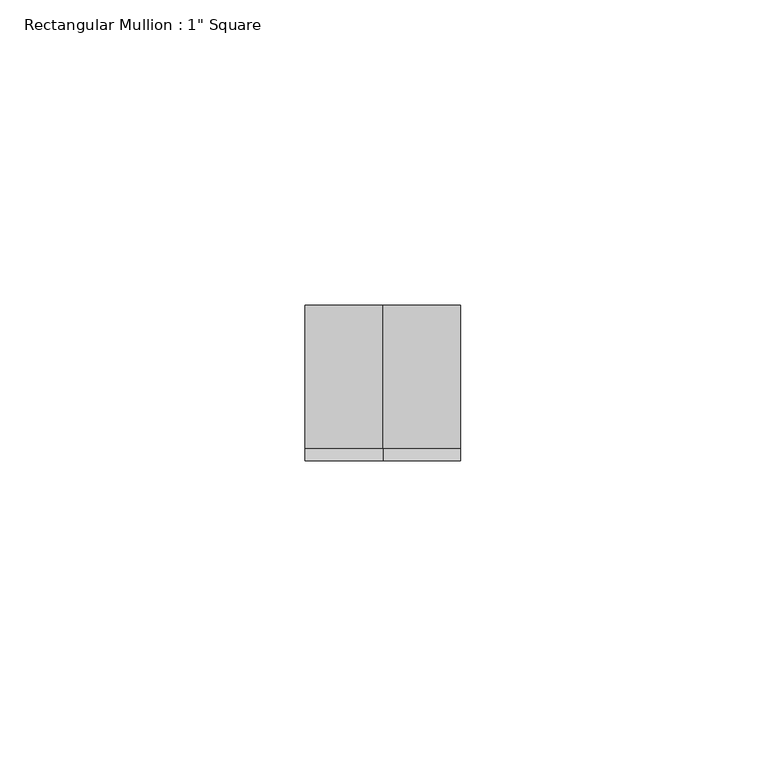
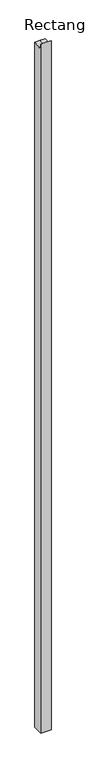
"""IFC4 building model written with IfcOpenShell, lengths in millimetres: member geometry."""

import ifcopenshell
import ifcopenshell.guid

model = None  # the IFC model being written
_history = None  # IfcOwnerHistory: only IFC2X3 demands one
_inside = {}  # id of a spatial element -> (the spatial element, [elements in it])
_under = {}  # id of a project, library or spatial element -> (it, [spatial elements below it])
_declared = {}  # id of a project -> (the project, [libraries it declares])
_typed = {}  # id of a type object -> (the type object, [elements of that type])
_made_of = {}  # id of a material, layer set ... -> (it, [elements and type objects made of it])


def new_model(schema):
    """Start an empty IFC model of exactly this schema.

    Asked for "IFC4X3", IfcOpenShell would pick the latest addendum, in which some entities
    have other attributes; the version numbers below select the first issue.
    IFC2X3 requires an IfcOwnerHistory on every rooted entity: one is made here for all.
    """
    global model, _history
    if schema == "IFC4X3":
        model = ifcopenshell.file(schema_version=(4, 3, 0, 0))
    else:
        model = ifcopenshell.file(schema=schema)
    _inside.clear()
    _under.clear()
    _declared.clear()
    _typed.clear()
    _made_of.clear()
    _history = None
    if model.schema == "IFC2X3":
        org = make("IfcOrganization", Name="unknown")
        user = make(
            "IfcPersonAndOrganization",
            ThePerson=make("IfcPerson", FamilyName="unknown"),
            TheOrganization=org,
        )
        app = make(
            "IfcApplication",
            ApplicationDeveloper=org,
            Version="unknown",
            ApplicationFullName="unknown",
            ApplicationIdentifier="unknown",
        )
        _history = make(
            "IfcOwnerHistory",
            OwningUser=user,
            OwningApplication=app,
            ChangeAction="ADDED",
            CreationDate=0,
        )
    return model


def make(cls, **values):
    """One entity of the class cls with the attributes given. An attribute that is None is left unset."""
    return model.create_entity(
        cls, **{name: value for name, value in values.items() if value is not None}
    )


def rooted(cls, **values):
    """An entity with a GlobalId (a new one), such as an element, a storey or a relation."""
    return make(cls, GlobalId=ifcopenshell.guid.new(), OwnerHistory=_history, **values)


def si_unit(unit_type, name, prefix=None):
    """IfcSIUnit, for example si_unit("LENGTHUNIT", "METRE", prefix="MILLI")."""
    return make("IfcSIUnit", UnitType=unit_type, Prefix=prefix, Name=name)


def assignment(units):
    """IfcUnitAssignment: the units of a project."""
    return None if units is None else make("IfcUnitAssignment", Units=units)


def point(xyz):
    """IfcCartesianPoint."""
    return None if xyz is None else make("IfcCartesianPoint", Coordinates=xyz)


def direction(xyz):
    """IfcDirection."""
    return None if xyz is None else make("IfcDirection", DirectionRatios=xyz)


def frame(location, z_axis=None, x_axis=None):
    """IfcAxis2Placement3D, a coordinate frame: its origin and axes. An axis left out is left unset."""
    return make(
        "IfcAxis2Placement3D",
        Location=point(location),
        Axis=direction(z_axis),
        RefDirection=direction(x_axis),
    )


def origin():
    """The frame at (0, 0, 0) with its axes left unset."""
    return frame((0.0, 0.0, 0.0))


def place(relative_to, where):
    """IfcLocalPlacement: puts the frame where relative to a parent placement (None: the world)."""
    return make(
        "IfcLocalPlacement", PlacementRelTo=relative_to, RelativePlacement=where
    )


def context(
    kind, dimensions, precision=None, world=None, true_north=None, identifier=None
):
    """IfcGeometricRepresentationContext, for example the 3D "Model" context."""
    return make(
        "IfcGeometricRepresentationContext",
        ContextIdentifier=identifier,
        ContextType=kind,
        CoordinateSpaceDimension=dimensions,
        Precision=precision,
        WorldCoordinateSystem=world,
        TrueNorth=true_north,
    )


def project(units=None, contexts=None):
    """IfcProject with its units and contexts."""
    return rooted(
        "IfcProject",
        Name="project",
        RepresentationContexts=contexts,
        UnitsInContext=assignment(units),
    )


def spatial(cls, under=None, at=None, **own):
    """A site, building, storey or space (cls), placed at a placement, below another one or the project."""
    s = rooted(cls, ObjectPlacement=at, **own)
    if under is not None:
        _under.setdefault(under.id(), (under, []))[1].append(s)
    return s


def faces_of(points, faces, orient=None, outer=None):
    """IfcFace entities. A face is a list of loops; a loop is a list of indices into points, from 0.

    orient and outer hold one flag for each loop. By default every Orientation is true, the
    first loop of a face is its IfcFaceOuterBound and the others are IfcFaceBound.
    """
    made = []
    for i, loops in enumerate(faces):
        bounds = []
        for j, loop in enumerate(loops):
            is_outer = j == 0 if outer is None else outer[i][j]
            bounds.append(
                make(
                    "IfcFaceOuterBound" if is_outer else "IfcFaceBound",
                    Bound=make("IfcPolyLoop", Polygon=[points[k] for k in loop]),
                    Orientation=True if orient is None else orient[i][j],
                )
            )
        made.append(make("IfcFace", Bounds=bounds))
    return made


def faceted_brep(points, faces, orient=None, outer=None, voids=None):
    """IfcFacetedBrep: a solid bounded by flat faces; with voids (closed shells), ...WithVoids."""
    shared = [point(p) for p in points]
    hull = make("IfcClosedShell", CfsFaces=faces_of(shared, faces, orient, outer))
    if voids is None:
        return make("IfcFacetedBrep", Outer=hull)
    return make(
        "IfcFacetedBrepWithVoids",
        Outer=hull,
        Voids=[
            make(cls, CfsFaces=faces_of(shared, fs, o, b)) for cls, fs, o, b in voids
        ],
    )


def shape(context_of_items, identifier, shape_type, items):
    """IfcShapeRepresentation: the items that make up one representation, for example the "Body"."""
    return make(
        "IfcShapeRepresentation",
        ContextOfItems=context_of_items,
        RepresentationIdentifier=identifier,
        RepresentationType=shape_type,
        Items=items,
    )


def source(mapping_origin, context_of_items, identifier, shape_type, items):
    """IfcRepresentationMap: a shape defined once, which mapped items show again and again."""
    return make(
        "IfcRepresentationMap",
        MappingOrigin=mapping_origin,
        MappedRepresentation=shape(context_of_items, identifier, shape_type, items),
    )


def transform(
    local_origin,
    x_axis=None,
    y_axis=None,
    z_axis=None,
    scale=None,
    scale2=None,
    scale3=None,
    uniform=True,
):
    """IfcCartesianTransformationOperator3D, or its non-uniform kind. x_axis, y_axis, z_axis: its Axis1, 2, 3."""
    if uniform:
        return make(
            "IfcCartesianTransformationOperator3D",
            Axis1=direction(x_axis),
            Axis2=direction(y_axis),
            LocalOrigin=point(local_origin),
            Scale=scale,
            Axis3=direction(z_axis),
        )
    return make(
        "IfcCartesianTransformationOperator3DnonUniform",
        Axis1=direction(x_axis),
        Axis2=direction(y_axis),
        LocalOrigin=point(local_origin),
        Scale=scale,
        Axis3=direction(z_axis),
        Scale2=scale2,
        Scale3=scale3,
    )


def mapped(mapping_source, mapping_target):
    """IfcMappedItem: shows the shape of a source again, moved by a transform."""
    return make(
        "IfcMappedItem", MappingSource=mapping_source, MappingTarget=mapping_target
    )


def made_of(thing, what):
    """Note that an element or type object is made of a material, layer set ...; save() writes the relation."""
    if what is not None:
        _made_of.setdefault(what.id(), (what, []))[1].append(thing)
    return thing


def element(
    cls,
    number,
    at=None,
    inside=None,
    cuts=None,
    type_object=None,
    material=None,
    context=None,
    identifier="Body",
    shape_type=None,
    held_by="IfcProductDefinitionShape",
    body=None,
    shapes=None,
    **own,
):
    """One element of the class cls, such as IfcWall. Its Tag is "e" and its number.

    at: its placement. inside: the storey or other place that contains it. cuts: it is an
    opening in that element (IfcRelVoidsElement). A single representation is given by context,
    identifier, shape_type and body (its items); several are given by shapes. held_by: the class
    of the entity that holds the representations. save() writes the other relations.
    """
    e = rooted(cls, Tag="e%d" % number, ObjectPlacement=at, **own)
    if body is not None:
        shapes = [shape(context, identifier, shape_type, body)]
    if shapes is not None:
        e.Representation = make(held_by, Representations=shapes)
    if inside is not None:
        _inside.setdefault(inside.id(), (inside, []))[1].append(e)
    if cuts is not None:
        rooted(
            "IfcRelVoidsElement", RelatingBuildingElement=cuts, RelatedOpeningElement=e
        )
    if type_object is not None:
        _typed.setdefault(type_object.id(), (type_object, []))[1].append(e)
    return made_of(e, material)


def aggregate(whole, parts):
    """IfcRelAggregates: a whole, such as a stair, and the parts it consists of."""
    return rooted("IfcRelAggregates", RelatingObject=whole, RelatedObjects=parts)


def save(model, path):
    """Write the relations noted so far, then the file.

    IfcRelAggregates (storeys below a building ...), IfcRelContainedInSpatialStructure (elements
    in a storey), IfcRelDefinesByType, IfcRelAssociatesMaterial and IfcRelDeclares: one each for
    every whole, place, type object, material and project.
    """
    for whole, parts in _under.values():
        aggregate(whole, parts)
    for where, things in _inside.values():
        rooted(
            "IfcRelContainedInSpatialStructure",
            RelatedElements=things,
            RelatingStructure=where,
        )
    for kind, things in _typed.values():
        rooted("IfcRelDefinesByType", RelatedObjects=things, RelatingType=kind)
    for what, things in _made_of.values():
        rooted("IfcRelAssociatesMaterial", RelatedObjects=things, RelatingMaterial=what)
    for by, libraries in _declared.values():
        rooted("IfcRelDeclares", RelatingContext=by, RelatedDefinitions=libraries)
    model.write(path)


def member_f776591f(model_context):
    return source(origin(), model_context, "Body", "Brep", [
        faceted_brep([(12.7, 12.7, -1791.9), (12.7, -12.7, -1791.9), (-12.7, -12.7, -1791.9), (-12.7, 12.7, -1791.9), (-12.7, 12.7, 1.782567), (0.0, 12.7, 1.782567), (12.7, 12.7, 1.782567), (-12.7, -12.7, 11.7414453), (-12.7, -10.6498724, -1.7623724), (12.7, -12.7, 11.7414453), (0.0, -12.7, 11.7414453), (12.7, -10.6498724, -1.7623724), (0.0, -10.6498724, -1.7623724)], [[[0, 1, 2, 3]], [[4, 5, 6, 0, 3]], [[7, 8, 4, 3, 2]], [[9, 10, 7, 2, 1]], [[6, 11, 9, 1, 0]], [[6, 5, 12, 11]], [[5, 4, 8, 12]], [[8, 7, 10, 12]], [[10, 9, 11, 12]]]),
    ])


if __name__ == "__main__":
    model = new_model("IFC4")
    model_context = context("Model", 3, world=origin())
    ifc_project = project(units=[si_unit("LENGTHUNIT", "METRE", prefix="MILLI")], contexts=[model_context])
    site = spatial("IfcSite", under=ifc_project)
    building = spatial("IfcBuilding", under=site)
    placement = place(None, origin())
    member_shape = member_f776591f(model_context)
    element("IfcMember", 1, ObjectType="Rectangular Mullion : 1\" Square", at=placement, inside=building, context=model_context, shape_type="MappedRepresentation", body=[
        mapped(member_shape, transform((0.0, 0.0, 0.0), x_axis=(1.0, 0.0, 0.0), y_axis=(0.0, 1.0, 0.0), z_axis=(0.0, 0.0, 1.0))),
    ])
    save(model, "model.ifc")
